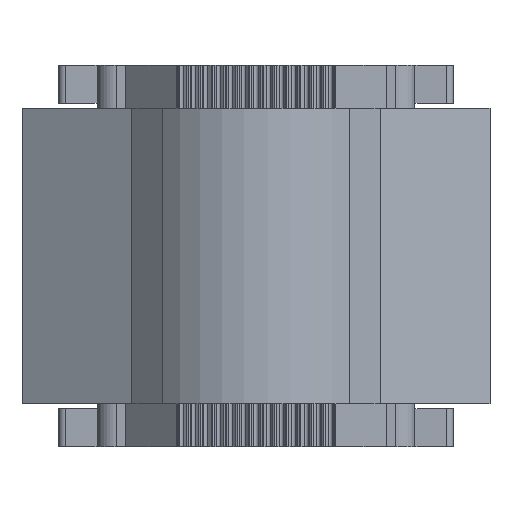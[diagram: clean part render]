
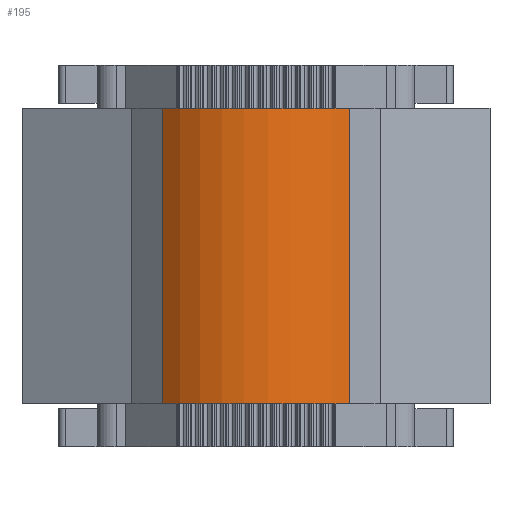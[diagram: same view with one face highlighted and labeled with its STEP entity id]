
A CAD part, front view. The second image highlights one B-rep face of the part: STEP entity #195.
In plain terms, the highlighted cylindrical face has radius 10.4 mm (diameter 20.8 mm), a partial arc.
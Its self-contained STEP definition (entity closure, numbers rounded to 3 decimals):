
#195 = ADVANCED_FACE ( 'NONE', ( #6007 ), #6006, .T. ) ;
#196 = EDGE_LOOP ( 'NONE', ( #197, #198, #200, #201 ) ) ;
#197 = ORIENTED_EDGE ( 'NONE', *, *, #14358, .T. ) ;
#198 = ORIENTED_EDGE ( 'NONE', *, *, #199, .F. ) ;
#199 = EDGE_CURVE ( 'NONE', #15771, #14373, #6001, .T. ) ;
#200 = ORIENTED_EDGE ( 'NONE', *, *, #15775, .F. ) ;
#201 = ORIENTED_EDGE ( 'NONE', *, *, #202, .T. ) ;
#202 = EDGE_CURVE ( 'NONE', #15774, #14386, #5997, .T. ) ;
#5994 = DIRECTION ( 'NONE',  ( 0., 0., -1. ) ) ;
#5995 = VECTOR ( 'NONE', #5994, 1000. ) ;
#5996 = CARTESIAN_POINT ( 'NONE',  ( -7.354, -3.326, 23.2 ) ) ;
#5997 = LINE ( 'NONE', #5996, #5995 ) ;
#5998 = DIRECTION ( 'NONE',  ( 0., 0., -1. ) ) ;
#5999 = VECTOR ( 'NONE', #5998, 1000. ) ;
#6000 = CARTESIAN_POINT ( 'NONE',  ( 7.354, -3.326, 23.2 ) ) ;
#6001 = LINE ( 'NONE', #6000, #5999 ) ;
#6002 = DIRECTION ( 'NONE',  ( -1., 0., 0. ) ) ;
#6003 = DIRECTION ( 'NONE',  ( 0., 0., -1. ) ) ;
#6004 = CARTESIAN_POINT ( 'NONE',  ( 0., 4.028, 23.2 ) ) ;
#6005 = AXIS2_PLACEMENT_3D ( 'NONE', #6004, #6003, #6002 ) ;
#6006 = CYLINDRICAL_SURFACE ( 'NONE', #6005, 10.4 ) ;
#6007 = FACE_OUTER_BOUND ( 'NONE', #196, .T. ) ;
#14358 = EDGE_CURVE ( 'NONE', #14386, #14373, #15362, .T. ) ;
#14373 = VERTEX_POINT ( 'NONE', #15357 ) ;
#14386 = VERTEX_POINT ( 'NONE', #15351 ) ;
#15351 = CARTESIAN_POINT ( 'NONE',  ( -7.354, -3.326, 0. ) ) ;
#15357 = CARTESIAN_POINT ( 'NONE',  ( 7.354, -3.326, 0. ) ) ;
#15358 = DIRECTION ( 'NONE',  ( 1., 0., 0. ) ) ;
#15359 = DIRECTION ( 'NONE',  ( 0., 0., 1. ) ) ;
#15360 = CARTESIAN_POINT ( 'NONE',  ( 0., 4.028, 0. ) ) ;
#15361 = AXIS2_PLACEMENT_3D ( 'NONE', #15360, #15359, #15358 ) ;
#15362 = CIRCLE ( 'NONE', #15361, 10.4 ) ;
#15443 = DIRECTION ( 'NONE',  ( 1., 0., 0. ) ) ;
#15444 = DIRECTION ( 'NONE',  ( 0., 0., 1. ) ) ;
#15445 = CARTESIAN_POINT ( 'NONE',  ( 0., 4.028, 23.2 ) ) ;
#15446 = AXIS2_PLACEMENT_3D ( 'NONE', #15445, #15444, #15443 ) ;
#15447 = CIRCLE ( 'NONE', #15446, 10.4 ) ;
#15448 = CARTESIAN_POINT ( 'NONE',  ( -7.354, -3.326, 23.2 ) ) ;
#15450 = CARTESIAN_POINT ( 'NONE',  ( 7.354, -3.326, 23.2 ) ) ;
#15771 = VERTEX_POINT ( 'NONE', #15450 ) ;
#15774 = VERTEX_POINT ( 'NONE', #15448 ) ;
#15775 = EDGE_CURVE ( 'NONE', #15774, #15771, #15447, .T. ) ;
